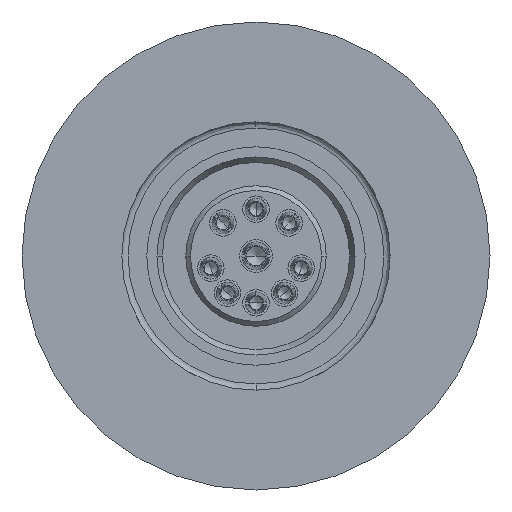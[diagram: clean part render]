
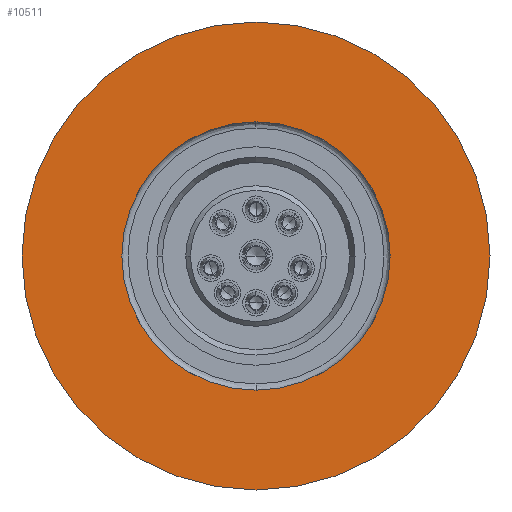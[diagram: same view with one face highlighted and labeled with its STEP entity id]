
A CAD part, left-side view. The second image highlights one B-rep face of the part: STEP entity #10511.
In plain terms, the highlighted planar face has unit normal (-1, 0, 0).
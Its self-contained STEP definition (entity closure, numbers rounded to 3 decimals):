
#828=CARTESIAN_POINT('',(-0.003,15.0,0.0));
#829=VERTEX_POINT('',#828);
#836=CARTESIAN_POINT('',(-0.003,-15.0,0.));
#837=VERTEX_POINT('',#836);
#838=CARTESIAN_POINT('',(-0.003,0.0,0.0));
#839=DIRECTION('',(1.0,0.0,0.0));
#840=DIRECTION('',(0.0,1.0,0.0));
#841=AXIS2_PLACEMENT_3D('',#838,#839,#840);
#842=CIRCLE('',#841,15.0);
#843=EDGE_CURVE('',#829,#837,#842,.T.);
#869=CARTESIAN_POINT('',(-0.003,8.6,0.0));
#870=VERTEX_POINT('',#869);
#879=CARTESIAN_POINT('',(-0.003,-8.6,0.));
#880=VERTEX_POINT('',#879);
#881=CARTESIAN_POINT('',(-0.003,0.0,0.0));
#882=DIRECTION('',(1.0,0.0,0.0));
#883=DIRECTION('',(0.0,1.0,0.0));
#884=AXIS2_PLACEMENT_3D('',#881,#882,#883);
#885=CIRCLE('',#884,8.6);
#886=EDGE_CURVE('',#880,#870,#885,.T.);
#10482=CARTESIAN_POINT('',(-0.003,0.0,0.0));
#10483=DIRECTION('',(1.0,0.0,0.0));
#10484=DIRECTION('',(0.0,1.0,0.0));
#10485=AXIS2_PLACEMENT_3D('',#10482,#10483,#10484);
#10486=CIRCLE('',#10485,8.6);
#10487=EDGE_CURVE('',#870,#880,#10486,.T.);
#10492=CARTESIAN_POINT('',(-0.003,11.8,0.0));
#10493=DIRECTION('',(-1.0,0.0,0.0));
#10494=DIRECTION('',(0.0,0.0,1.0));
#10495=AXIS2_PLACEMENT_3D('',#10492,#10493,#10494);
#10496=PLANE('',#10495);
#10497=ORIENTED_EDGE('',*,*,#843,.F.);
#10498=CARTESIAN_POINT('',(-0.003,0.0,0.0));
#10499=DIRECTION('',(1.0,0.0,0.0));
#10500=DIRECTION('',(0.0,1.0,0.0));
#10501=AXIS2_PLACEMENT_3D('',#10498,#10499,#10500);
#10502=CIRCLE('',#10501,15.0);
#10503=EDGE_CURVE('',#837,#829,#10502,.T.);
#10504=ORIENTED_EDGE('',*,*,#10503,.F.);
#10505=EDGE_LOOP('',(#10497,#10504));
#10506=FACE_OUTER_BOUND('',#10505,.T.);
#10507=ORIENTED_EDGE('',*,*,#10487,.T.);
#10508=ORIENTED_EDGE('',*,*,#886,.T.);
#10509=EDGE_LOOP('',(#10507,#10508));
#10510=FACE_BOUND('',#10509,.T.);
#10511=ADVANCED_FACE('',(#10506,#10510),#10496,.T.);
